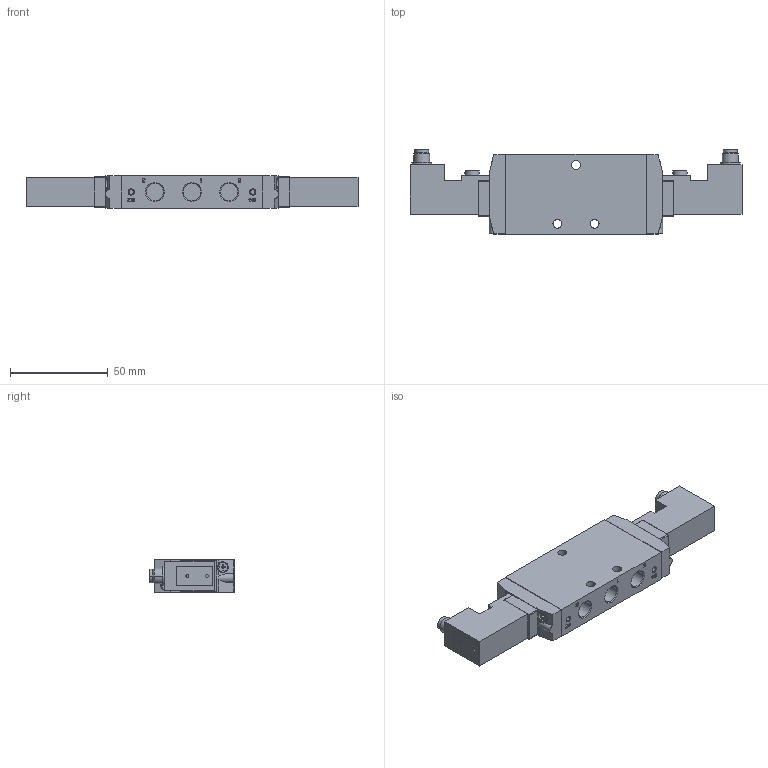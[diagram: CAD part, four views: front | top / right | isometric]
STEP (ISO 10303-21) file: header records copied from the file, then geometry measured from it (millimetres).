
FILE_DESCRIPTION((''),'2;1');
FILE_NAME('R422100972','2018-11-20T',('vol1hc'),(''),'CREO PARAMETRIC BY PTC INC, 2016260','CREO PARAMETRIC BY PTC INC, 2016260','');
FILE_SCHEMA(('CONFIG_CONTROL_DESIGN'));
Length unit declared in the file: millimetre
Products named in the file (1): R422100972
Bounding box: 169.6 x 43.3 x 16.8 mm (x, y, z)
Volume: 81829.6 mm3; surface area: 22078.6 mm2
Topology: 1 solids, 1 shells, 673 faces, 1802 edges, 1190 vertices
Faces by surface type: plane 561, cylinder 90, cone 22
Entity records: 20889 total; most frequent: CARTESIAN_POINT 3813, ORIENTED_EDGE 3604, DIRECTION 3338, EDGE_CURVE 1802, VECTOR 1580, LINE 1580, VERTEX_POINT 1190, AXIS2_PLACEMENT_3D 879
